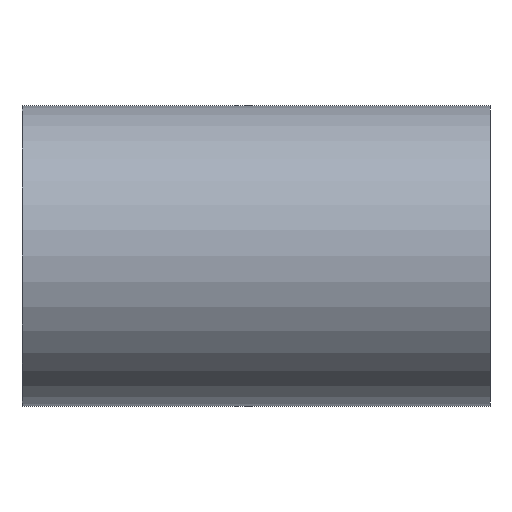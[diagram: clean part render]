
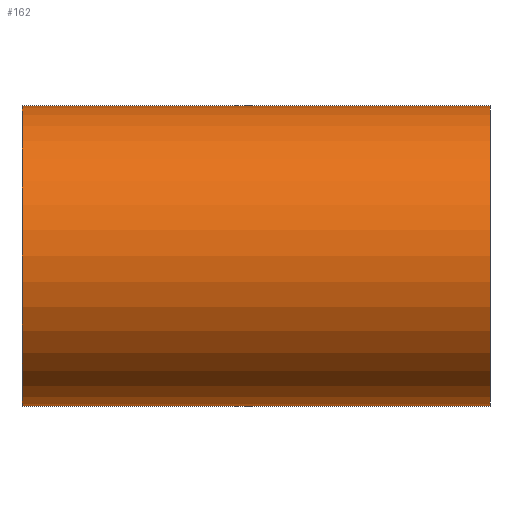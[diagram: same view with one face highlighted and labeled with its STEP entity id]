
A CAD part, front view. The second image highlights one B-rep face of the part: STEP entity #162.
In plain terms, the highlighted cylindrical face has radius 360 mm (diameter 720 mm), a partial arc.
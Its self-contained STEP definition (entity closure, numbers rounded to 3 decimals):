
#162=ADVANCED_FACE('',(#326),#327,.T.);
#326=FACE_OUTER_BOUND('',#509,.T.);
#327=CYLINDRICAL_SURFACE('',#510,360.0);
#509=EDGE_LOOP('',(#927,#928,#929,#930));
#510=AXIS2_PLACEMENT_3D('',#931,#932,#933);
#927=ORIENTED_EDGE('',*,*,#999,.T.);
#928=ORIENTED_EDGE('',*,*,#1173,.F.);
#929=ORIENTED_EDGE('',*,*,#1001,.T.);
#930=ORIENTED_EDGE('',*,*,#1174,.F.);
#931=CARTESIAN_POINT('',(0.0,0.0,0.0));
#932=DIRECTION('',(1.0,0.0,0.0));
#933=DIRECTION('',(0.0,0.0,-1.0));
#999=EDGE_CURVE('',#1178,#1179,#1180,.T.);
#1001=EDGE_CURVE('',#1183,#1181,#1184,.T.);
#1173=EDGE_CURVE('',#1183,#1179,#1439,.T.);
#1174=EDGE_CURVE('',#1178,#1181,#1440,.T.);
#1178=VERTEX_POINT('',#1444);
#1179=VERTEX_POINT('',#1445);
#1180=LINE('',#1446,#1447);
#1181=VERTEX_POINT('',#1448);
#1183=VERTEX_POINT('',#1450);
#1184=LINE('',#1451,#1452);
#1439=CIRCLE('',#1759,360.0);
#1440=CIRCLE('',#1760,360.0);
#1444=CARTESIAN_POINT('',(-560.0,0.0,-360.0));
#1445=CARTESIAN_POINT('',(560.0,0.0,-360.0));
#1446=CARTESIAN_POINT('',(0.0,0.,-360.0));
#1447=VECTOR('',#1763,1.0);
#1448=CARTESIAN_POINT('',(-560.0,0.,360.0));
#1450=CARTESIAN_POINT('',(560.0,0.,360.0));
#1451=CARTESIAN_POINT('',(0.0,0.,360.0));
#1452=VECTOR('',#1767,1.0);
#1759=AXIS2_PLACEMENT_3D('',#2042,#2043,#2044);
#1760=AXIS2_PLACEMENT_3D('',#2045,#2046,#2047);
#1763=DIRECTION('',(1.0,0.0,0.0));
#1767=DIRECTION('',(-1.0,-0.0,-0.0));
#2042=CARTESIAN_POINT('',(560.0,0.0,0.0));
#2043=DIRECTION('',(1.0,0.0,0.0));
#2044=DIRECTION('',(0.0,0.0,-1.0));
#2045=CARTESIAN_POINT('',(-560.0,0.0,0.0));
#2046=DIRECTION('',(-1.0,0.0,0.0));
#2047=DIRECTION('',(0.0,0.0,-1.0));
